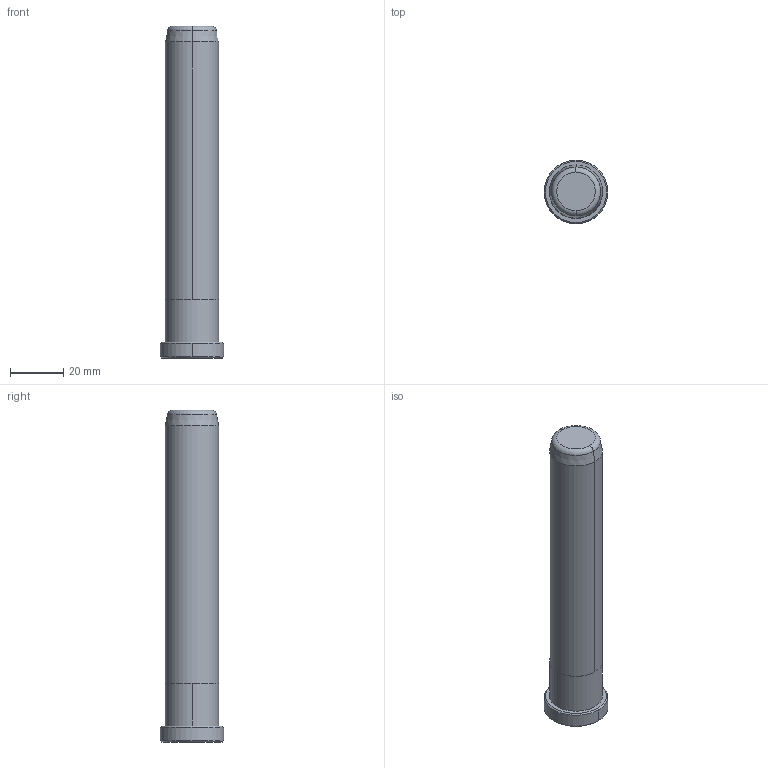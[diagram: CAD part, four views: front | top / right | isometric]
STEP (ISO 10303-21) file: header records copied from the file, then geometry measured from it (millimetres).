
FILE_DESCRIPTION((''),'2;1');
FILE_NAME('B80820125','2018-01-06T',('MANU'),(''),'PRO/ENGINEER BY PARAMETRIC TECHNOLOGY CORPORATION, 2012130','PRO/ENGINEER BY PARAMETRIC TECHNOLOGY CORPORATION, 2012130','');
FILE_SCHEMA(('CONFIG_CONTROL_DESIGN'));
Length unit declared in the file: millimetre
Products named in the file (1): B80820125
Bounding box: 24 x 24 x 125 mm (x, y, z)
Volume: 39867.8 mm3; surface area: 8679.9 mm2
Topology: 1 solids, 1 shells, 18 faces, 34 edges, 20 vertices
Faces by surface type: cone 6, cylinder 6, plane 4, torus 2
Entity records: 494 total; most frequent: DIRECTION 92, CARTESIAN_POINT 72, ORIENTED_EDGE 68, AXIS2_PLACEMENT_3D 40, EDGE_CURVE 34, CIRCLE 22, VERTEX_POINT 20, EDGE_LOOP 20
